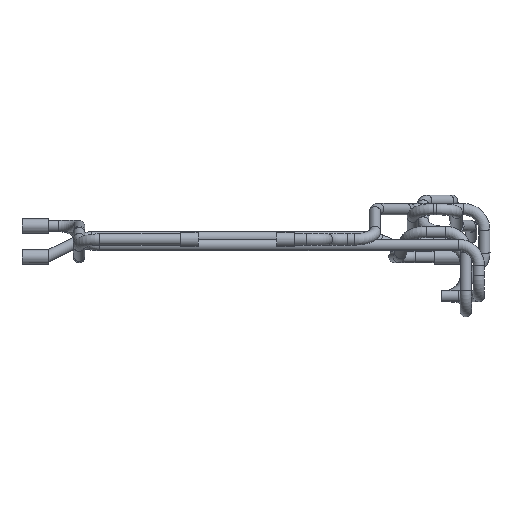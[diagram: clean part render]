
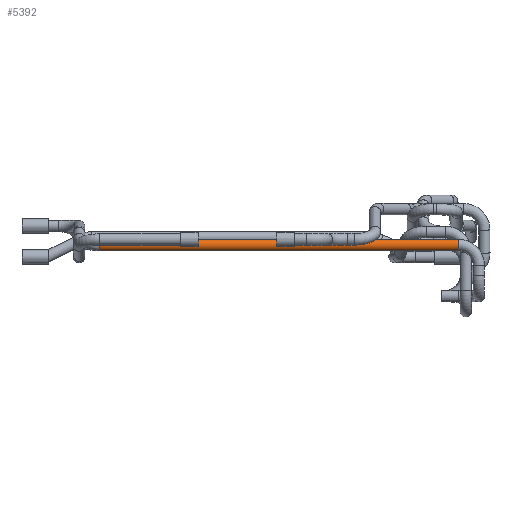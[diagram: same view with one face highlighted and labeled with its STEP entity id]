
A CAD part, front view. The second image highlights one B-rep face of the part: STEP entity #5392.
In plain terms, the highlighted cylindrical face has radius 0.825 mm (diameter 1.65 mm), a full revolution.
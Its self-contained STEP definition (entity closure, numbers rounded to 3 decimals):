
#5112 = TOROIDAL_SURFACE('',#5113,3.,0.825);
#5113 = AXIS2_PLACEMENT_3D('',#5114,#5115,#5116);
#5114 = CARTESIAN_POINT('',(32.1,-35.,-12.7));
#5115 = DIRECTION('',(0.,-1.,0.));
#5116 = DIRECTION('',(1.,0.,0.));
#5237 = VERTEX_POINT('',#5238);
#5238 = CARTESIAN_POINT('',(32.1,-34.175,-9.7));
#5259 = EDGE_CURVE('',#5237,#5237,#5260,.T.);
#5260 = SURFACE_CURVE('',#5261,(#5266,#5273),.PCURVE_S1.);
#5261 = CIRCLE('',#5262,0.825);
#5262 = AXIS2_PLACEMENT_3D('',#5263,#5264,#5265);
#5263 = CARTESIAN_POINT('',(32.1,-35.,-9.7));
#5264 = DIRECTION('',(1.,0.,0.));
#5265 = DIRECTION('',(0.,0.,1.));
#5266 = PCURVE('',#5112,#5267);
#5267 = DEFINITIONAL_REPRESENTATION('',(#5268),#5272);
#5268 = LINE('',#5269,#5270);
#5269 = CARTESIAN_POINT('',(1.571,0.));
#5270 = VECTOR('',#5271,1.);
#5271 = DIRECTION('',(0.,1.));
#5272 = ( GEOMETRIC_REPRESENTATION_CONTEXT(2) 
PARAMETRIC_REPRESENTATION_CONTEXT() REPRESENTATION_CONTEXT('2D SPACE',''
  ) );
#5273 = PCURVE('',#5274,#5279);
#5274 = CYLINDRICAL_SURFACE('',#5275,0.825);
#5275 = AXIS2_PLACEMENT_3D('',#5276,#5277,#5278);
#5276 = CARTESIAN_POINT('',(32.1,-35.,-9.7));
#5277 = DIRECTION('',(-1.,0.,0.));
#5278 = DIRECTION('',(0.,1.,0.));
#5279 = DEFINITIONAL_REPRESENTATION('',(#5280),#5283);
#5280 = B_SPLINE_CURVE_WITH_KNOTS('',1,(#5281,#5282),.UNSPECIFIED.,.F.,
  .F.,(2,2),(4.712,10.996),.PIECEWISE_BEZIER_KNOTS.);
#5281 = CARTESIAN_POINT('',(6.283,0.));
#5282 = CARTESIAN_POINT('',(0.,0.));
#5283 = ( GEOMETRIC_REPRESENTATION_CONTEXT(2) 
PARAMETRIC_REPRESENTATION_CONTEXT() REPRESENTATION_CONTEXT('2D SPACE',''
  ) );
#5392 = ADVANCED_FACE('',(#5393),#5274,.T.);
#5393 = FACE_BOUND('',#5394,.T.);
#5394 = EDGE_LOOP('',(#5395,#5417,#5443,#5444));
#5395 = ORIENTED_EDGE('',*,*,#5396,.T.);
#5396 = EDGE_CURVE('',#5237,#5397,#5399,.T.);
#5397 = VERTEX_POINT('',#5398);
#5398 = CARTESIAN_POINT('',(-20.,-34.175,-9.7));
#5399 = SEAM_CURVE('',#5400,(#5404,#5410),.PCURVE_S1.);
#5400 = LINE('',#5401,#5402);
#5401 = CARTESIAN_POINT('',(32.1,-34.175,-9.7));
#5402 = VECTOR('',#5403,1.);
#5403 = DIRECTION('',(-1.,0.,0.));
#5404 = PCURVE('',#5274,#5405);
#5405 = DEFINITIONAL_REPRESENTATION('',(#5406),#5409);
#5406 = B_SPLINE_CURVE_WITH_KNOTS('',1,(#5407,#5408),.UNSPECIFIED.,.F.,
  .F.,(2,2),(0.,52.1),.PIECEWISE_BEZIER_KNOTS.);
#5407 = CARTESIAN_POINT('',(6.283,0.));
#5408 = CARTESIAN_POINT('',(6.283,52.1));
#5409 = ( GEOMETRIC_REPRESENTATION_CONTEXT(2) 
PARAMETRIC_REPRESENTATION_CONTEXT() REPRESENTATION_CONTEXT('2D SPACE',''
  ) );
#5410 = PCURVE('',#5274,#5411);
#5411 = DEFINITIONAL_REPRESENTATION('',(#5412),#5416);
#5412 = LINE('',#5413,#5414);
#5413 = CARTESIAN_POINT('',(0.,0.));
#5414 = VECTOR('',#5415,1.);
#5415 = DIRECTION('',(0.,1.));
#5416 = ( GEOMETRIC_REPRESENTATION_CONTEXT(2) 
PARAMETRIC_REPRESENTATION_CONTEXT() REPRESENTATION_CONTEXT('2D SPACE',''
  ) );
#5417 = ORIENTED_EDGE('',*,*,#5418,.F.);
#5418 = EDGE_CURVE('',#5397,#5397,#5419,.T.);
#5419 = SURFACE_CURVE('',#5420,(#5425,#5432),.PCURVE_S1.);
#5420 = CIRCLE('',#5421,0.825);
#5421 = AXIS2_PLACEMENT_3D('',#5422,#5423,#5424);
#5422 = CARTESIAN_POINT('',(-20.,-35.,-9.7));
#5423 = DIRECTION('',(-1.,0.,0.));
#5424 = DIRECTION('',(0.,1.,0.));
#5425 = PCURVE('',#5274,#5426);
#5426 = DEFINITIONAL_REPRESENTATION('',(#5427),#5431);
#5427 = LINE('',#5428,#5429);
#5428 = CARTESIAN_POINT('',(0.,52.1));
#5429 = VECTOR('',#5430,1.);
#5430 = DIRECTION('',(1.,0.));
#5431 = ( GEOMETRIC_REPRESENTATION_CONTEXT(2) 
PARAMETRIC_REPRESENTATION_CONTEXT() REPRESENTATION_CONTEXT('2D SPACE',''
  ) );
#5432 = PCURVE('',#5433,#5438);
#5433 = TOROIDAL_SURFACE('',#5434,3.,0.825);
#5434 = AXIS2_PLACEMENT_3D('',#5435,#5436,#5437);
#5435 = CARTESIAN_POINT('',(-20.,-32.14,-8.794));
#5436 = DIRECTION('',(0.,0.302,-0.953
    ));
#5437 = DIRECTION('',(0.,-0.953,
    -0.302));
#5438 = DEFINITIONAL_REPRESENTATION('',(#5439),#5442);
#5439 = B_SPLINE_CURVE_WITH_KNOTS('',1,(#5440,#5441),.UNSPECIFIED.,.F.,
  .F.,(2,2),(0.,6.283),.PIECEWISE_BEZIER_KNOTS.);
#5440 = CARTESIAN_POINT('',(0.,9.118));
#5441 = CARTESIAN_POINT('',(0.,2.835));
#5442 = ( GEOMETRIC_REPRESENTATION_CONTEXT(2) 
PARAMETRIC_REPRESENTATION_CONTEXT() REPRESENTATION_CONTEXT('2D SPACE',''
  ) );
#5443 = ORIENTED_EDGE('',*,*,#5396,.F.);
#5444 = ORIENTED_EDGE('',*,*,#5259,.F.);
